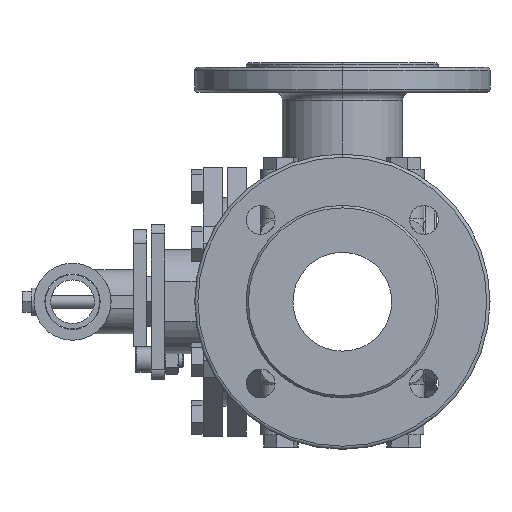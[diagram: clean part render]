
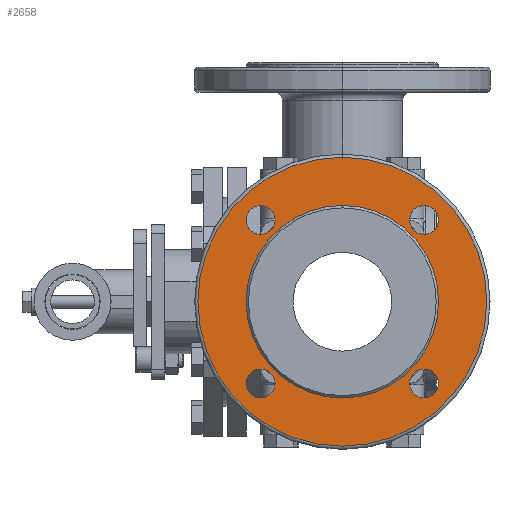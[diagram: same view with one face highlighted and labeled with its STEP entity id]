
A CAD part, left-side view. The second image highlights one B-rep face of the part: STEP entity #2658.
In plain terms, the highlighted planar face has unit normal (-1, 0, 0) as drawn and (1, 0, 0) by its records, which use the part's own axes.
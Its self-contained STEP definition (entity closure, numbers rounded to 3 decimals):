
#525 = CARTESIAN_POINT ( 'NONE',  ( 75., 0., -90. ) ) ;
#566 = CARTESIAN_POINT ( 'NONE',  ( 75., 0., 90. ) ) ;
#579 = CARTESIAN_POINT ( 'NONE',  ( 75., 50.912, 59.912 ) ) ;
#580 = CARTESIAN_POINT ( 'NONE',  ( 75., 50.912, 41.912 ) ) ;
#583 = CARTESIAN_POINT ( 'NONE',  ( 75., -50.912, 59.912 ) ) ;
#584 = CARTESIAN_POINT ( 'NONE',  ( 75., -50.912, 41.912 ) ) ;
#587 = CARTESIAN_POINT ( 'NONE',  ( 75., -50.912, -41.912 ) ) ;
#588 = CARTESIAN_POINT ( 'NONE',  ( 75., -50.912, -59.912 ) ) ;
#589 = CARTESIAN_POINT ( 'NONE',  ( 75., 0., -60. ) ) ;
#590 = CARTESIAN_POINT ( 'NONE',  ( 75., 0., 60. ) ) ;
#591 = CARTESIAN_POINT ( 'NONE',  ( 75., 50.912, -41.912 ) ) ;
#592 = CARTESIAN_POINT ( 'NONE',  ( 75., 50.912, -59.912 ) ) ;
#2658 = ADVANCED_FACE ( 'NONE', ( #12136, #12138, #12140, #12142, #12135, #12137 ), #12139, .F. ) ;
#3196 = AXIS2_PLACEMENT_3D ( 'NONE', #12143, #12144, #12145 ) ;
#3342 = EDGE_CURVE ( 'NONE', #15045, #15048, #4910, .T. ) ;
#3356 = EDGE_CURVE ( 'NONE', #15063, #15064, #4938, .T. ) ;
#3360 = EDGE_CURVE ( 'NONE', #15067, #15068, #4944, .T. ) ;
#3364 = EDGE_CURVE ( 'NONE', #15071, #15072, #4950, .T. ) ;
#3368 = EDGE_CURVE ( 'NONE', #15075, #15076, #4956, .T. ) ;
#3370 = EDGE_CURVE ( 'NONE', #15073, #15074, #4958, .T. ) ;
#3501 = EDGE_CURVE ( 'NONE', #15048, #15045, #6127, .T. ) ;
#3502 = EDGE_CURVE ( 'NONE', #15064, #15063, #6130, .T. ) ;
#3503 = EDGE_CURVE ( 'NONE', #15068, #15067, #6132, .T. ) ;
#3504 = EDGE_CURVE ( 'NONE', #15072, #15071, #6134, .T. ) ;
#3505 = EDGE_CURVE ( 'NONE', #15076, #15075, #6136, .T. ) ;
#3506 = EDGE_CURVE ( 'NONE', #15074, #15073, #6138, .T. ) ;
#4910 = CIRCLE ( 'NONE', #4915, 90. ) ;
#4915 = AXIS2_PLACEMENT_3D ( 'NONE', #5611, #5612, #5613 ) ;
#4938 = CIRCLE ( 'NONE', #4942, 9. ) ;
#4942 = AXIS2_PLACEMENT_3D ( 'NONE', #5655, #5656, #5657 ) ;
#4944 = CIRCLE ( 'NONE', #4948, 9. ) ;
#4948 = AXIS2_PLACEMENT_3D ( 'NONE', #5667, #5668, #5669 ) ;
#4950 = CIRCLE ( 'NONE', #4954, 9. ) ;
#4954 = AXIS2_PLACEMENT_3D ( 'NONE', #5679, #5680, #5681 ) ;
#4956 = CIRCLE ( 'NONE', #4960, 9. ) ;
#4958 = CIRCLE ( 'NONE', #4963, 60. ) ;
#4960 = AXIS2_PLACEMENT_3D ( 'NONE', #5692, #5693, #5694 ) ;
#4963 = AXIS2_PLACEMENT_3D ( 'NONE', #5698, #5699, #5700 ) ;
#5611 = CARTESIAN_POINT ( 'NONE',  ( 75., 0., 0. ) ) ;
#5612 = DIRECTION ( 'NONE',  ( 1., 0., 0. ) ) ;
#5613 = DIRECTION ( 'NONE',  ( 0., 0., 1. ) ) ;
#5655 = CARTESIAN_POINT ( 'NONE',  ( 75., 50.912, 50.912 ) ) ;
#5656 = DIRECTION ( 'NONE',  ( 1., 0., 0. ) ) ;
#5657 = DIRECTION ( 'NONE',  ( 0., 0., -1. ) ) ;
#5667 = CARTESIAN_POINT ( 'NONE',  ( 75., -50.912, 50.912 ) ) ;
#5668 = DIRECTION ( 'NONE',  ( 1., 0., 0. ) ) ;
#5669 = DIRECTION ( 'NONE',  ( 0., 0., -1. ) ) ;
#5679 = CARTESIAN_POINT ( 'NONE',  ( 75., -50.912, -50.912 ) ) ;
#5680 = DIRECTION ( 'NONE',  ( 1., 0., 0. ) ) ;
#5681 = DIRECTION ( 'NONE',  ( 0., 0., -1. ) ) ;
#5692 = CARTESIAN_POINT ( 'NONE',  ( 75., 50.912, -50.912 ) ) ;
#5693 = DIRECTION ( 'NONE',  ( 1., 0., 0. ) ) ;
#5694 = DIRECTION ( 'NONE',  ( 0., 0., -1. ) ) ;
#5698 = CARTESIAN_POINT ( 'NONE',  ( 75., 0., 0. ) ) ;
#5699 = DIRECTION ( 'NONE',  ( 1., 0., 0. ) ) ;
#5700 = DIRECTION ( 'NONE',  ( 0., 0., 1. ) ) ;
#6088 = CARTESIAN_POINT ( 'NONE',  ( 75., 0., 0. ) ) ;
#6089 = DIRECTION ( 'NONE',  ( 1., 0., 0. ) ) ;
#6090 = DIRECTION ( 'NONE',  ( 0., 0., 1. ) ) ;
#6091 = CARTESIAN_POINT ( 'NONE',  ( 75., 50.912, 50.912 ) ) ;
#6092 = DIRECTION ( 'NONE',  ( 1., 0., 0. ) ) ;
#6093 = DIRECTION ( 'NONE',  ( 0., 0., -1. ) ) ;
#6094 = CARTESIAN_POINT ( 'NONE',  ( 75., -50.912, 50.912 ) ) ;
#6095 = DIRECTION ( 'NONE',  ( 1., 0., 0. ) ) ;
#6096 = DIRECTION ( 'NONE',  ( 0., 0., -1. ) ) ;
#6097 = CARTESIAN_POINT ( 'NONE',  ( 75., -50.912, -50.912 ) ) ;
#6098 = DIRECTION ( 'NONE',  ( 1., 0., 0. ) ) ;
#6099 = DIRECTION ( 'NONE',  ( 0., 0., -1. ) ) ;
#6100 = CARTESIAN_POINT ( 'NONE',  ( 75., 50.912, -50.912 ) ) ;
#6101 = DIRECTION ( 'NONE',  ( 1., 0., 0. ) ) ;
#6102 = DIRECTION ( 'NONE',  ( 0., 0., -1. ) ) ;
#6103 = CARTESIAN_POINT ( 'NONE',  ( 75., 0., 0. ) ) ;
#6104 = DIRECTION ( 'NONE',  ( 1., 0., 0. ) ) ;
#6105 = DIRECTION ( 'NONE',  ( 0., 0., 1. ) ) ;
#6127 = CIRCLE ( 'NONE', #6131, 90. ) ;
#6130 = CIRCLE ( 'NONE', #6133, 9. ) ;
#6131 = AXIS2_PLACEMENT_3D ( 'NONE', #6088, #6089, #6090 ) ;
#6132 = CIRCLE ( 'NONE', #6135, 9. ) ;
#6133 = AXIS2_PLACEMENT_3D ( 'NONE', #6091, #6092, #6093 ) ;
#6134 = CIRCLE ( 'NONE', #6137, 9. ) ;
#6135 = AXIS2_PLACEMENT_3D ( 'NONE', #6094, #6095, #6096 ) ;
#6136 = CIRCLE ( 'NONE', #6139, 9. ) ;
#6137 = AXIS2_PLACEMENT_3D ( 'NONE', #6097, #6098, #6099 ) ;
#6138 = CIRCLE ( 'NONE', #6141, 60. ) ;
#6139 = AXIS2_PLACEMENT_3D ( 'NONE', #6100, #6101, #6102 ) ;
#6141 = AXIS2_PLACEMENT_3D ( 'NONE', #6103, #6104, #6105 ) ;
#12135 = FACE_BOUND ( 'NONE', #15338, .T. ) ;
#12136 = FACE_OUTER_BOUND ( 'NONE', #15337, .T. ) ;
#12137 = FACE_BOUND ( 'NONE', #15345, .T. ) ;
#12138 = FACE_BOUND ( 'NONE', #15346, .T. ) ;
#12139 = PLANE ( 'NONE',  #3196 ) ;
#12140 = FACE_BOUND ( 'NONE', #15348, .T. ) ;
#12142 = FACE_BOUND ( 'NONE', #15347, .T. ) ;
#12143 = CARTESIAN_POINT ( 'NONE',  ( 75., 0., 0. ) ) ;
#12144 = DIRECTION ( 'NONE',  ( -1., 0., 0. ) ) ;
#12145 = DIRECTION ( 'NONE',  ( 0., 0., 1. ) ) ;
#14125 = ORIENTED_EDGE ( 'NONE', *, *, #3501, .T. ) ;
#14126 = ORIENTED_EDGE ( 'NONE', *, *, #3342, .T. ) ;
#14127 = ORIENTED_EDGE ( 'NONE', *, *, #3502, .F. ) ;
#14128 = ORIENTED_EDGE ( 'NONE', *, *, #3356, .F. ) ;
#14129 = ORIENTED_EDGE ( 'NONE', *, *, #3503, .F. ) ;
#14130 = ORIENTED_EDGE ( 'NONE', *, *, #3360, .F. ) ;
#14131 = ORIENTED_EDGE ( 'NONE', *, *, #3504, .F. ) ;
#14132 = ORIENTED_EDGE ( 'NONE', *, *, #3364, .F. ) ;
#14133 = ORIENTED_EDGE ( 'NONE', *, *, #3505, .F. ) ;
#14134 = ORIENTED_EDGE ( 'NONE', *, *, #3368, .F. ) ;
#14135 = ORIENTED_EDGE ( 'NONE', *, *, #3370, .F. ) ;
#14136 = ORIENTED_EDGE ( 'NONE', *, *, #3506, .F. ) ;
#15045 = VERTEX_POINT ( 'NONE', #525 ) ;
#15048 = VERTEX_POINT ( 'NONE', #566 ) ;
#15063 = VERTEX_POINT ( 'NONE', #579 ) ;
#15064 = VERTEX_POINT ( 'NONE', #580 ) ;
#15067 = VERTEX_POINT ( 'NONE', #583 ) ;
#15068 = VERTEX_POINT ( 'NONE', #584 ) ;
#15071 = VERTEX_POINT ( 'NONE', #587 ) ;
#15072 = VERTEX_POINT ( 'NONE', #588 ) ;
#15073 = VERTEX_POINT ( 'NONE', #589 ) ;
#15074 = VERTEX_POINT ( 'NONE', #590 ) ;
#15075 = VERTEX_POINT ( 'NONE', #591 ) ;
#15076 = VERTEX_POINT ( 'NONE', #592 ) ;
#15337 = EDGE_LOOP ( 'NONE', ( #14125, #14126 ) ) ;
#15338 = EDGE_LOOP ( 'NONE', ( #14133, #14134 ) ) ;
#15345 = EDGE_LOOP ( 'NONE', ( #14135, #14136 ) ) ;
#15346 = EDGE_LOOP ( 'NONE', ( #14127, #14128 ) ) ;
#15347 = EDGE_LOOP ( 'NONE', ( #14131, #14132 ) ) ;
#15348 = EDGE_LOOP ( 'NONE', ( #14129, #14130 ) ) ;
